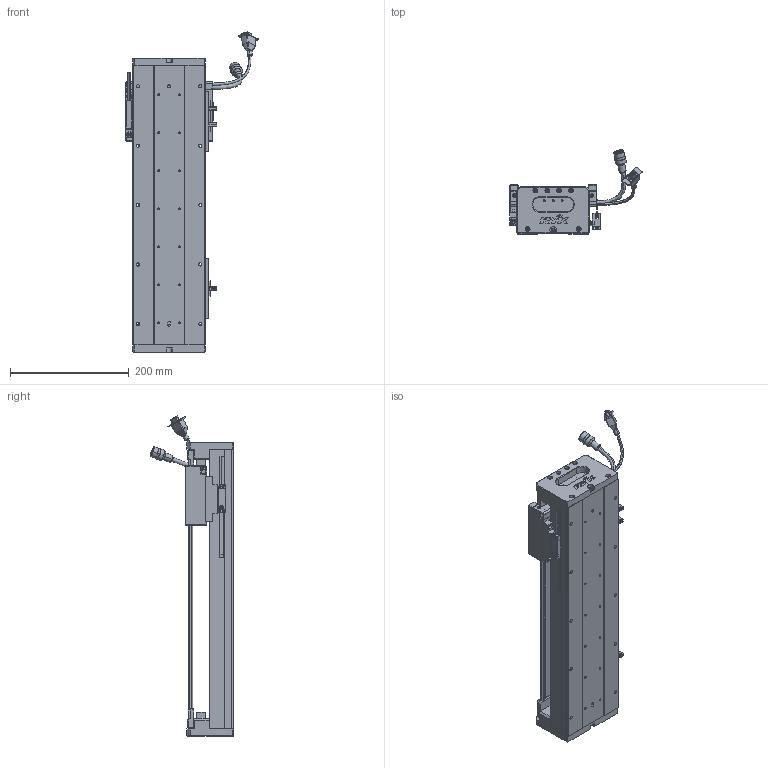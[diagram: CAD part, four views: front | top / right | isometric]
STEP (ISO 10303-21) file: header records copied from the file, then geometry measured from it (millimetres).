
FILE_DESCRIPTION (( 'STEP AP203' ), '1' );
FILE_NAME ('Z1-RY120D-1-L500-B-K.SLDASM_0300.step', '2021-05-17T03:44:34', ( '盈信电脑' ), ( '东莞市道滘镇水果街19号' ), 'SwSTEP 2.0', 'SolidWorks 2016', '' );
FILE_SCHEMA (( 'CONFIG_CONTROL_DESIGN' ));
Length unit declared in the file: millimetre
Products named in the file (37): HOLDER0; SCALE; HARNESS-Part-1; Z-RY120D詩湍狟揤裔; SCREW-M1.7-1; 覜茼ん672; Z1-RY120-L500詩湍100mm遵_0300; SEAL; 140雄赽晤鎢ん堤盄; Z-120詩湍傷裔啣; SCREW-M1.6-3; RY100FB-遵嫖萇覜茼え; 140蚥薯蝶輸; 120-Z-臏賑輸盄裔(21遴); SCREW-M1.7; SCALE-Part-1; 榋妏寠巭燃_暯_M2_2; Z1-RY120-500-倰第菁釱_0300; HARNESS-Part-2; Z1-RY120D-1-L500-B-K.SLDASM_0300; SHIELDPLATE; HARNESS; LABEL; SCREW-M1.6-1; COVER-Part-1; PSLH080_PSLF2; SEAL-Part-1; 672嫖萇羲壽假蚾釱; COVER; 080黍杅芛假蚾釱21遴; PBU_SHEET; Z-RY120D詩湍奻揤裔; SCALE-Part-2; SCREW-M1.6; LABEL-Part-1; SCREW-M1.6-2; Z1-RY120铝滑块（21款）
Assembly tree (43 placements, depth 4):
  Z1-RY120D-1-L500-B-K.SLDASM_0300
    Z1-RY120-500-倰第菁釱_0300
    覜茼ん672  x3
    672嫖萇羲壽假蚾釱  x2
    Z1-RY120铝滑块（21款）
    PSLH080_PSLF2
      SCALE
        SCALE-Part-1
        SCALE-Part-2
      HARNESS
        HARNESS-Part-1
        HARNESS-Part-2
      LABEL
        LABEL-Part-1
      COVER
        COVER-Part-1
      SEAL
        SEAL-Part-1
      榋妏寠巭燃_暯_M2_2
      SHIELDPLATE
      SCREW-M1.7
      SCREW-M1.7-1
      PBU_SHEET
      SCREW-M1.6
      SCREW-M1.6-1
      SCREW-M1.6-2
      SCREW-M1.6-3
      HOLDER0
    080黍杅芛假蚾釱21遴
    120-Z-臏賑輸盄裔(21遴)
    140雄赽晤鎢ん堤盄
    140蚥薯蝶輸  x2
    RY100FB-遵嫖萇覜茼え
    Z-120詩湍傷裔啣  x2
    Z-RY120D詩湍奻揤裔  x2
    Z-RY120D詩湍狟揤裔  x2
    Z1-RY120-L500詩湍100mm遵_0300
Bounding box: 222.88 x 140.94 x 539 mm (x, y, z)
Volume: 1643823.1 mm3; surface area: 560638.7 mm2
Topology: 38 solids, 38 shells, 2435 faces, 6414 edges, 4062 vertices
Faces by surface type: plane 1071, cylinder 1018, cone 224, torus 69, bspline 53
Entity records: 69001 total; most frequent: CARTESIAN_POINT 17116, DIRECTION 10022, ORIENTED_EDGE 9908, EDGE_CURVE 4954, AXIS2_PLACEMENT_3D 3620, VERTEX_POINT 3182, VECTOR 2782, LINE 2782
